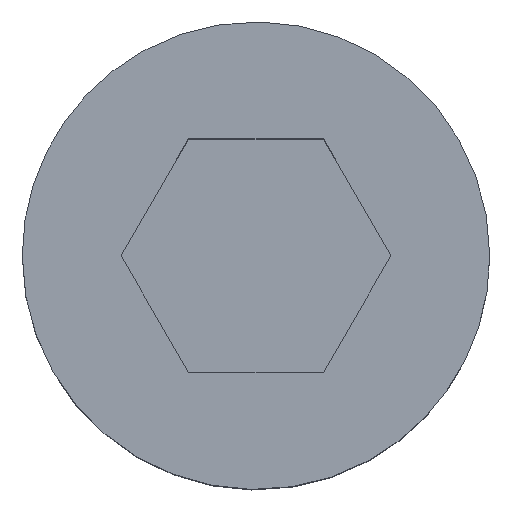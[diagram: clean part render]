
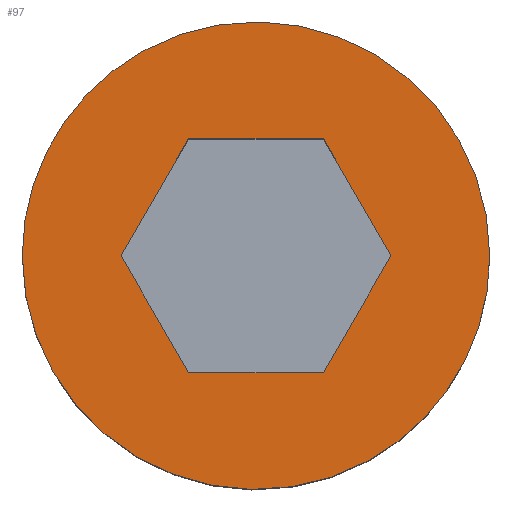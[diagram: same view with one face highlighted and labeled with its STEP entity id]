
A CAD part, top view. The second image highlights one B-rep face of the part: STEP entity #97.
In plain terms, the highlighted planar face has unit normal (0, 0, 1).
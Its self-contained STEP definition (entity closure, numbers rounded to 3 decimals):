
#97=ADVANCED_FACE('Shaft.1',(#207,#208),#209,.T.);
#207=FACE_OUTER_BOUND('',#335,.T.);
#208=FACE_BOUND('',#336,.T.);
#209=PLANE('',#337);
#335=EDGE_LOOP('',(#522,#523,#524,#525));
#336=EDGE_LOOP('',(#526,#527,#528,#529,#530,#531));
#337=AXIS2_PLACEMENT_3D('',#532,#533,#534);
#522=ORIENTED_EDGE('',*,*,#765,.T.);
#523=ORIENTED_EDGE('',*,*,#747,.T.);
#524=ORIENTED_EDGE('',*,*,#741,.T.);
#525=ORIENTED_EDGE('',*,*,#770,.T.);
#526=ORIENTED_EDGE('',*,*,#776,.F.);
#527=ORIENTED_EDGE('',*,*,#777,.F.);
#528=ORIENTED_EDGE('',*,*,#778,.F.);
#529=ORIENTED_EDGE('',*,*,#779,.F.);
#530=ORIENTED_EDGE('',*,*,#780,.F.);
#531=ORIENTED_EDGE('',*,*,#781,.F.);
#532=CARTESIAN_POINT('',(0.0,0.,6.9));
#533=DIRECTION('',(0.0,0.0,1.0));
#534=DIRECTION('',(1.0,0.0,0.0));
#741=EDGE_CURVE('',#876,#873,#877,.T.);
#747=EDGE_CURVE('',#883,#876,#886,.T.);
#765=EDGE_CURVE('',#912,#883,#913,.T.);
#770=EDGE_CURVE('',#873,#912,#919,.T.);
#776=EDGE_CURVE('',#926,#927,#928,.T.);
#777=EDGE_CURVE('',#929,#926,#930,.T.);
#778=EDGE_CURVE('',#931,#929,#932,.T.);
#779=EDGE_CURVE('',#933,#931,#934,.T.);
#780=EDGE_CURVE('',#935,#933,#936,.T.);
#781=EDGE_CURVE('',#927,#935,#937,.T.);
#873=VERTEX_POINT('',#1057);
#876=VERTEX_POINT('',#1061);
#877=CIRCLE('',#1062,5.0);
#883=VERTEX_POINT('',#1069);
#886=CIRCLE('',#1073,5.0);
#912=VERTEX_POINT('',#1103);
#913=CIRCLE('',#1104,5.0);
#919=CIRCLE('',#1111,5.0);
#926=VERTEX_POINT('',#1118);
#927=VERTEX_POINT('',#1119);
#928=LINE('',#1120,#1121);
#929=VERTEX_POINT('',#1122);
#930=LINE('',#1123,#1124);
#931=VERTEX_POINT('',#1125);
#932=LINE('',#1126,#1127);
#933=VERTEX_POINT('',#1128);
#934=LINE('',#1129,#1130);
#935=VERTEX_POINT('',#1131);
#936=LINE('',#1132,#1133);
#937=LINE('',#1134,#1135);
#1057=CARTESIAN_POINT('',(5.0,0.,6.9));
#1061=CARTESIAN_POINT('',(2.397,-4.388,6.9));
#1062=AXIS2_PLACEMENT_3D('',#1271,#1272,#1273);
#1069=CARTESIAN_POINT('',(-5.0,0.,6.9));
#1073=AXIS2_PLACEMENT_3D('',#1282,#1283,#1284);
#1103=CARTESIAN_POINT('',(-2.397,4.388,6.9));
#1104=AXIS2_PLACEMENT_3D('',#1313,#1314,#1315);
#1111=AXIS2_PLACEMENT_3D('',#1323,#1324,#1325);
#1118=CARTESIAN_POINT('',(1.443,-2.5,6.9));
#1119=CARTESIAN_POINT('',(2.887,0.,6.9));
#1120=CARTESIAN_POINT('',(2.165,-1.25,6.9));
#1121=VECTOR('',#1332,1.0);
#1122=CARTESIAN_POINT('',(-1.443,-2.5,6.9));
#1123=CARTESIAN_POINT('',(0.,-2.5,6.9));
#1124=VECTOR('',#1333,1.0);
#1125=CARTESIAN_POINT('',(-2.887,0.,6.9));
#1126=CARTESIAN_POINT('',(-2.165,-1.25,6.9));
#1127=VECTOR('',#1334,1.0);
#1128=CARTESIAN_POINT('',(-1.443,2.5,6.9));
#1129=CARTESIAN_POINT('',(-2.165,1.25,6.9));
#1130=VECTOR('',#1335,1.0);
#1131=CARTESIAN_POINT('',(1.443,2.5,6.9));
#1132=CARTESIAN_POINT('',(0.,2.5,6.9));
#1133=VECTOR('',#1336,1.0);
#1134=CARTESIAN_POINT('',(2.165,1.25,6.9));
#1135=VECTOR('',#1337,1.0);
#1271=CARTESIAN_POINT('',(0.0,0.0,6.9));
#1272=DIRECTION('',(0.0,0.0,1.0));
#1273=DIRECTION('',(1.0,0.0,0.0));
#1282=CARTESIAN_POINT('',(0.0,0.0,6.9));
#1283=DIRECTION('',(0.0,0.0,1.0));
#1284=DIRECTION('',(1.0,0.0,0.0));
#1313=CARTESIAN_POINT('',(0.0,0.0,6.9));
#1314=DIRECTION('',(0.0,0.0,1.0));
#1315=DIRECTION('',(1.0,0.0,0.0));
#1323=CARTESIAN_POINT('',(0.0,0.0,6.9));
#1324=DIRECTION('',(0.0,0.0,1.0));
#1325=DIRECTION('',(1.0,0.0,0.0));
#1332=DIRECTION('',(0.5,0.866,0.0));
#1333=DIRECTION('',(1.0,0.0,0.0));
#1334=DIRECTION('',(0.5,-0.866,0.0));
#1335=DIRECTION('',(-0.5,-0.866,0.0));
#1336=DIRECTION('',(-1.0,0.0,0.0));
#1337=DIRECTION('',(-0.5,0.866,0.0));
